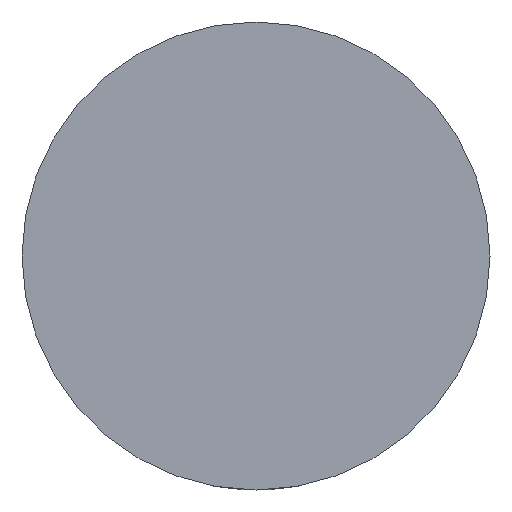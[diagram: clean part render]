
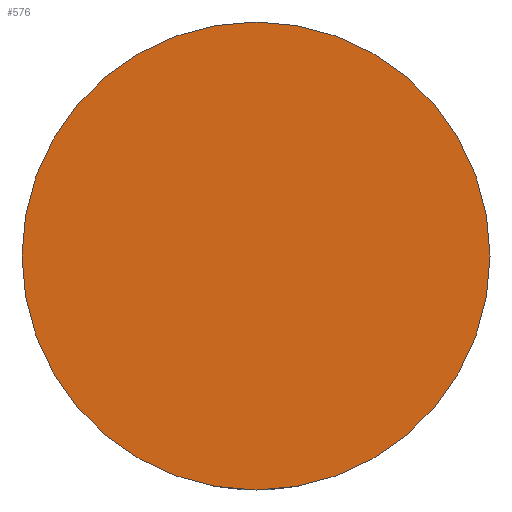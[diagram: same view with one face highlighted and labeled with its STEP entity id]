
A CAD part, front view. The second image highlights one B-rep face of the part: STEP entity #576.
In plain terms, the highlighted planar face has unit normal (0, -1, 0).
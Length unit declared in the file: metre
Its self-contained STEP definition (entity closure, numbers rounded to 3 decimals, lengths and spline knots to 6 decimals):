
#17=CIRCLE('',#596,0.03683);
#174=ORIENTED_EDGE('',*,*,#197,.F.);
#197=EDGE_CURVE('',#274,#274,#17,.T.);
#274=VERTEX_POINT('',#818);
#482=EDGE_LOOP('',(#174));
#517=FACE_BOUND('',#482,.T.);
#546=PLANE('',#626);
#576=ADVANCED_FACE('',(#517),#546,.T.);
#596=AXIS2_PLACEMENT_3D('',#817,#657,#658);
#626=AXIS2_PLACEMENT_3D('',#935,#771,#772);
#657=DIRECTION('',(0.,1.,0.));
#658=DIRECTION('',(1.,0.,0.));
#771=DIRECTION('',(0.,-1.,0.));
#772=DIRECTION('',(1.,0.,0.));
#817=CARTESIAN_POINT('',(0.,-0.00508,0.));
#818=CARTESIAN_POINT('',(0.03683,-0.00508,0.));
#935=CARTESIAN_POINT('',(0.,-0.00508,0.));
